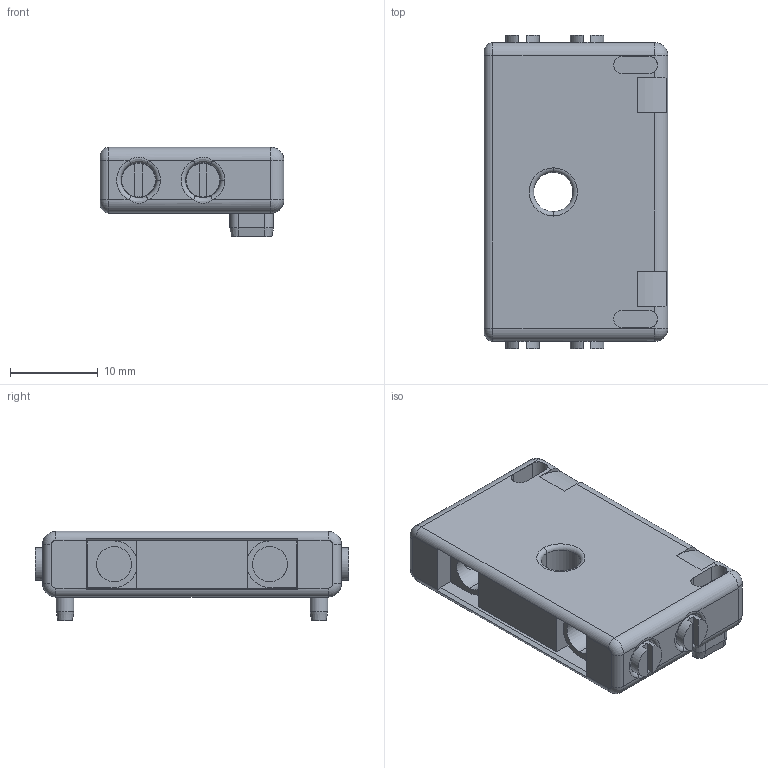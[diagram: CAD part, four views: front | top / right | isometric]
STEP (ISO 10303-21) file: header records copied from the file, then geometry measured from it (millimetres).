
FILE_DESCRIPTION (( 'STEP AP214' ), '1' );
FILE_NAME ('Á7.STEP', '2024-05-23T09:41:33', ( '' ), ( '' ), 'SwSTEP 2.0', 'SolidWorks 2020', '' );
FILE_SCHEMA (( 'AUTOMOTIVE_DESIGN' ));
Length unit declared in the file: millimetre
Products named in the file (1): ﾁ7
Bounding box: 21 x 35.8 x 10.2 mm (x, y, z)
Volume: 4461 mm3; surface area: 4194.4 mm2
Topology: 1 solids, 1 shells, 212 faces, 528 edges, 328 vertices
Faces by surface type: plane 88, cylinder 76, torus 28, bspline 10, cone 6, sphere 4
Entity records: 6930 total; most frequent: CARTESIAN_POINT 1727, DIRECTION 1156, ORIENTED_EDGE 1048, EDGE_CURVE 524, AXIS2_PLACEMENT_3D 457, VERTEX_POINT 328, CIRCLE 254, LINE 242
